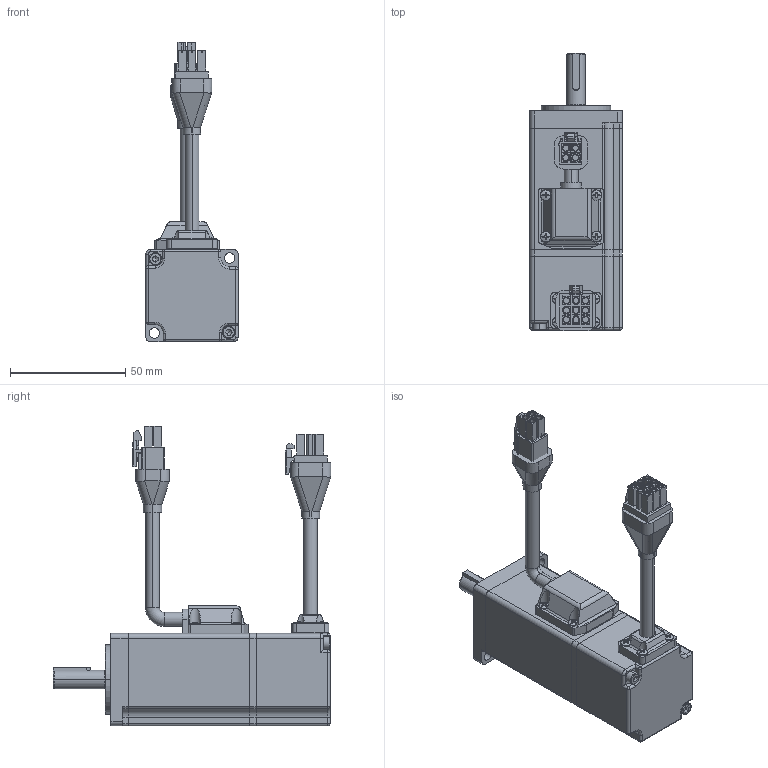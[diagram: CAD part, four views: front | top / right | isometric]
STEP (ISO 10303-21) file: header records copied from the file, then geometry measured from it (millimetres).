
FILE_DESCRIPTION (( 'STEP AP203' ), '1' );
FILE_NAME ('L-100.STEP', '2019-08-21T06:34:27', ( '1' ), ( 'MideaGroup IT' ), 'SwSTEP 2.0', 'SolidWorks 2012', '' );
FILE_SCHEMA (( 'CONFIG_CONTROL_DESIGN' ));
Length unit declared in the file: millimetre
Products named in the file (32): L-100; 煦极宒晤鎢ん源偶; R40瑩; 蛌赽軞傖; Rolling bearings 609 GB 276-94_Rolling bearings 609 GB 276-94; 萇儂粣; 綴傷裔; 晤鎢ん裔軞傖; M3X28_GB_FASTENER_SCREWS_HSHCS M3X25-C; 晤鎢ん陓瘍盄; 毀嚏盄揤裔郪璃; 毀嚏盄傷赽揤裔; 晤鎢ん盄傷赽; 晤鎢ん盄揤裔躇猾; 晤鎢ん盄揤裔; 綴裔; ヶ傷裔蚾饜极; 嘎殤蚐猾; M3X10_GB_FASTENER_SCREWS_HSHCS M3X10-C; ヶ傷裔; 隅赽郪璃; M2.5X4_GB_CROSS_SCREWS_TYPE3 M2.5X8-8-N; 垫片2.5_GB_FASTENER_WASHER_SMWC 2.5; 傷赽; 雄薯盄揤裔郪璃; 雄薯盄傷赽裔; M2.5X5_GB_CROSS_SCREWS_TYPE3 M2.5X8-8-N; 雄薯盄; 雄薯盄傷赽; 雄薯盄躇猾菜; 雄薯盄揤裔; 儂褲
Assembly tree (40 placements, depth 4):
  L-100
    隅赽郪璃
      儂褲
      雄薯盄揤裔郪璃
        雄薯盄揤裔
        雄薯盄躇猾菜
        雄薯盄傷赽
        雄薯盄
        M2.5X5_GB_CROSS_SCREWS_TYPE3 M2.5X8-8-N  x4
        雄薯盄傷赽裔
      傷赽
      垫片2.5_GB_FASTENER_WASHER_SMWC 2.5
      M2.5X4_GB_CROSS_SCREWS_TYPE3 M2.5X8-8-N
    ヶ傷裔蚾饜极
      ヶ傷裔
      M3X10_GB_FASTENER_SCREWS_HSHCS M3X10-C  x2
      嘎殤蚐猾
    晤鎢ん裔軞傖
      綴裔
      毀嚏盄揤裔郪璃
        晤鎢ん盄揤裔
        晤鎢ん盄揤裔躇猾
        晤鎢ん盄傷赽
        M2.5X5_GB_CROSS_SCREWS_TYPE3 M2.5X8-8-N  x4
        毀嚏盄傷赽揤裔
      晤鎢ん陓瘍盄
      M3X28_GB_FASTENER_SCREWS_HSHCS M3X25-C  x2
    煦极宒晤鎢ん源偶
      綴傷裔
      蛌赽軞傖
        萇儂粣
        Rolling bearings 609 GB 276-94_Rolling bearings 609 GB 276-94
      R40瑩
Bounding box: 40 x 120.36 x 129.8 mm (x, y, z)
Volume: 132392.2 mm3; surface area: 57984.3 mm2
Topology: 34 solids, 67 shells, 1437 faces, 3992 edges, 2619 vertices
Faces by surface type: plane 657, cylinder 517, torus 98, cone 87, sphere 50, bspline 28
Entity records: 48177 total; most frequent: CARTESIAN_POINT 13651, DIRECTION 6549, ORIENTED_EDGE 6259, EDGE_CURVE 3324, AXIS2_PLACEMENT_3D 2385, VERTEX_POINT 2197, VECTOR 1779, LINE 1779
